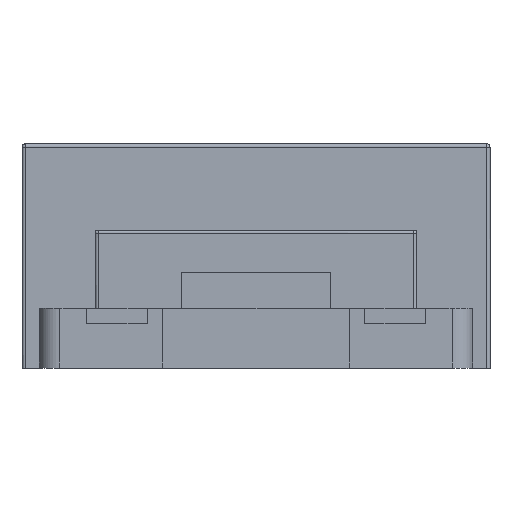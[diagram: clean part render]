
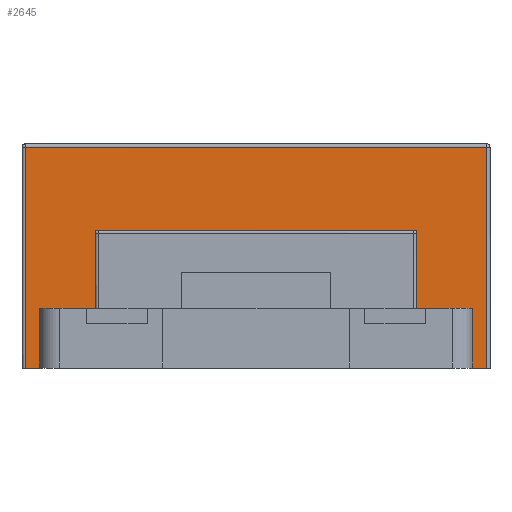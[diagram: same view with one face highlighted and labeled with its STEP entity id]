
A CAD part, left-side view. The second image highlights one B-rep face of the part: STEP entity #2645.
In plain terms, the highlighted free-form (B-spline) face has degree [1, 1] with [2, 2] control points.
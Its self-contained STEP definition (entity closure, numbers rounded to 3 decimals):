
#112=CARTESIAN_POINT('',(-14.035,7.64,6.68));
#113=VERTEX_POINT('',#112);
#114=CARTESIAN_POINT('',(-14.035,7.79,6.53));
#115=VERTEX_POINT('',#114);
#116=CARTESIAN_POINT('',(-14.035,7.64,6.68));
#117=CARTESIAN_POINT('',(-14.035,7.664,6.68));
#118=CARTESIAN_POINT('',(-14.035,7.688,6.675));
#119=CARTESIAN_POINT('',(-14.035,7.71,6.666));
#120=CARTESIAN_POINT('',(-14.035,7.75,6.639));
#121=CARTESIAN_POINT('',(-14.035,7.777,6.599));
#122=CARTESIAN_POINT('',(-14.035,7.786,6.577));
#123=CARTESIAN_POINT('',(-14.035,7.79,6.554));
#124=CARTESIAN_POINT('',(-14.035,7.79,6.53));
#125=B_SPLINE_CURVE_WITH_KNOTS('',5,(#116,#117,#118,#119,#120,#121,#122,#123,#124),.UNSPECIFIED.,.F.,.U.,(6,3,6),(0.,0.785,1.571),.UNSPECIFIED.);
#126=EDGE_CURVE('',#113,#115,#125,.T.);
#330=CARTESIAN_POINT('',(-14.035,-7.79,6.53));
#331=VERTEX_POINT('',#330);
#332=CARTESIAN_POINT('',(-14.035,-7.64,6.68));
#333=VERTEX_POINT('',#332);
#334=CARTESIAN_POINT('',(-14.035,-7.79,6.53));
#335=CARTESIAN_POINT('',(-14.035,-7.79,6.554));
#336=CARTESIAN_POINT('',(-14.035,-7.785,6.577));
#337=CARTESIAN_POINT('',(-14.035,-7.776,6.599));
#338=CARTESIAN_POINT('',(-14.035,-7.749,6.639));
#339=CARTESIAN_POINT('',(-14.035,-7.709,6.666));
#340=CARTESIAN_POINT('',(-14.035,-7.687,6.675));
#341=CARTESIAN_POINT('',(-14.035,-7.663,6.68));
#342=CARTESIAN_POINT('',(-14.035,-7.64,6.68));
#343=B_SPLINE_CURVE_WITH_KNOTS('',5,(#334,#335,#336,#337,#338,#339,#340,#341,#342),.UNSPECIFIED.,.F.,.U.,(6,3,6),(0.,0.785,1.571),.UNSPECIFIED.);
#344=EDGE_CURVE('',#331,#333,#343,.T.);
#409=CARTESIAN_POINT('',(-14.035,7.79,2.9));
#410=VERTEX_POINT('',#409);
#411=CARTESIAN_POINT('',(-14.035,7.79,6.53));
#412=CARTESIAN_POINT('',(-14.035,7.79,5.804));
#413=CARTESIAN_POINT('',(-14.035,7.79,5.078));
#414=CARTESIAN_POINT('',(-14.035,7.79,4.352));
#415=CARTESIAN_POINT('',(-14.035,7.79,3.626));
#416=CARTESIAN_POINT('',(-14.035,7.79,2.9));
#417=B_SPLINE_CURVE_WITH_KNOTS('',5,(#411,#412,#413,#414,#415,#416),.UNSPECIFIED.,.F.,.U.,(6,6),(0.,3.63),.UNSPECIFIED.);
#418=EDGE_CURVE('',#115,#410,#417,.T.);
#440=CARTESIAN_POINT('',(-14.035,-7.64,6.68));
#441=CARTESIAN_POINT('',(-14.035,-4.584,6.68));
#442=CARTESIAN_POINT('',(-14.035,-1.528,6.68));
#443=CARTESIAN_POINT('',(-14.035,1.528,6.68));
#444=CARTESIAN_POINT('',(-14.035,4.584,6.68));
#445=CARTESIAN_POINT('',(-14.035,7.64,6.68));
#446=B_SPLINE_CURVE_WITH_KNOTS('',5,(#440,#441,#442,#443,#444,#445),.UNSPECIFIED.,.F.,.U.,(6,6),(0.,15.28),.UNSPECIFIED.);
#447=EDGE_CURVE('',#333,#113,#446,.T.);
#565=CARTESIAN_POINT('',(-14.035,-11.175,10.7));
#566=VERTEX_POINT('',#565);
#776=CARTESIAN_POINT('',(-14.035,11.175,10.7));
#777=VERTEX_POINT('',#776);
#866=CARTESIAN_POINT('',(-14.035,11.175,0.));
#867=VERTEX_POINT('',#866);
#880=CARTESIAN_POINT('',(-14.035,11.175,0.));
#881=CARTESIAN_POINT('',(-14.035,11.175,2.14));
#882=CARTESIAN_POINT('',(-14.035,11.175,4.28));
#883=CARTESIAN_POINT('',(-14.035,11.175,6.42));
#884=CARTESIAN_POINT('',(-14.035,11.175,8.56));
#885=CARTESIAN_POINT('',(-14.035,11.175,10.7));
#886=B_SPLINE_CURVE_WITH_KNOTS('',5,(#880,#881,#882,#883,#884,#885),.UNSPECIFIED.,.F.,.U.,(6,6),(0.,10.7),.UNSPECIFIED.);
#887=EDGE_CURVE('',#867,#777,#886,.T.);
#914=CARTESIAN_POINT('',(-14.035,11.175,10.7));
#915=CARTESIAN_POINT('',(-14.035,6.705,10.7));
#916=CARTESIAN_POINT('',(-14.035,2.235,10.7));
#917=CARTESIAN_POINT('',(-14.035,-2.235,10.7));
#918=CARTESIAN_POINT('',(-14.035,-6.705,10.7));
#919=CARTESIAN_POINT('',(-14.035,-11.175,10.7));
#920=B_SPLINE_CURVE_WITH_KNOTS('',5,(#914,#915,#916,#917,#918,#919),.UNSPECIFIED.,.F.,.U.,(6,6),(0.,22.35),.UNSPECIFIED.);
#921=EDGE_CURVE('',#777,#566,#920,.T.);
#947=CARTESIAN_POINT('',(-14.035,-11.175,0.));
#948=VERTEX_POINT('',#947);
#973=CARTESIAN_POINT('',(-14.035,-11.175,10.7));
#974=CARTESIAN_POINT('',(-14.035,-11.175,8.56));
#975=CARTESIAN_POINT('',(-14.035,-11.175,6.42));
#976=CARTESIAN_POINT('',(-14.035,-11.175,4.28));
#977=CARTESIAN_POINT('',(-14.035,-11.175,2.14));
#978=CARTESIAN_POINT('',(-14.035,-11.175,0.));
#979=B_SPLINE_CURVE_WITH_KNOTS('',5,(#973,#974,#975,#976,#977,#978),.UNSPECIFIED.,.F.,.U.,(6,6),(0.,10.7),.UNSPECIFIED.);
#980=EDGE_CURVE('',#566,#948,#979,.T.);
#1396=CARTESIAN_POINT('',(-14.035,-10.49,0.));
#1397=VERTEX_POINT('',#1396);
#1398=CARTESIAN_POINT('',(-14.035,-10.49,0.));
#1399=CARTESIAN_POINT('',(-14.035,-10.627,0.));
#1400=CARTESIAN_POINT('',(-14.035,-10.764,0.));
#1401=CARTESIAN_POINT('',(-14.035,-10.901,0.));
#1402=CARTESIAN_POINT('',(-14.035,-11.038,0.));
#1403=CARTESIAN_POINT('',(-14.035,-11.175,0.));
#1404=B_SPLINE_CURVE_WITH_KNOTS('',5,(#1398,#1399,#1400,#1401,#1402,#1403),.UNSPECIFIED.,.F.,.U.,(6,6),(0.,0.685),.UNSPECIFIED.);
#1405=EDGE_CURVE('',#1397,#948,#1404,.T.);
#1513=CARTESIAN_POINT('',(-14.035,10.49,0.));
#1514=VERTEX_POINT('',#1513);
#1524=CARTESIAN_POINT('',(-14.035,11.175,0.));
#1525=CARTESIAN_POINT('',(-14.035,11.038,0.));
#1526=CARTESIAN_POINT('',(-14.035,10.901,0.));
#1527=CARTESIAN_POINT('',(-14.035,10.764,0.));
#1528=CARTESIAN_POINT('',(-14.035,10.627,0.));
#1529=CARTESIAN_POINT('',(-14.035,10.49,0.));
#1530=B_SPLINE_CURVE_WITH_KNOTS('',5,(#1524,#1525,#1526,#1527,#1528,#1529),.UNSPECIFIED.,.F.,.U.,(6,6),(0.,0.685),.UNSPECIFIED.);
#1531=EDGE_CURVE('',#867,#1514,#1530,.T.);
#2578=CARTESIAN_POINT('',(-14.035,11.175,0.));
#2579=CARTESIAN_POINT('',(-14.035,11.175,10.7));
#2580=CARTESIAN_POINT('',(-14.035,-11.175,0.));
#2581=CARTESIAN_POINT('',(-14.035,-11.175,10.7));
#2582=B_SPLINE_SURFACE_WITH_KNOTS('',1,1,((#2578,#2579),(#2580,#2581)),.PLANE_SURF.,.F.,.F.,.U.,(2,2),(2,2),(0.,2.089),(0.,1.),.UNSPECIFIED.);
#2583=ORIENTED_EDGE('',*,*,#887,.F.);
#2584=ORIENTED_EDGE('',*,*,#1531,.T.);
#2585=CARTESIAN_POINT('',(-14.035,10.49,2.9));
#2586=VERTEX_POINT('',#2585);
#2587=CARTESIAN_POINT('',(-14.035,10.49,2.9));
#2588=CARTESIAN_POINT('',(-14.035,10.49,2.32));
#2589=CARTESIAN_POINT('',(-14.035,10.49,1.74));
#2590=CARTESIAN_POINT('',(-14.035,10.49,1.16));
#2591=CARTESIAN_POINT('',(-14.035,10.49,0.58));
#2592=CARTESIAN_POINT('',(-14.035,10.49,0.));
#2593=B_SPLINE_CURVE_WITH_KNOTS('',5,(#2587,#2588,#2589,#2590,#2591,#2592),.UNSPECIFIED.,.F.,.U.,(6,6),(0.,2.9),.UNSPECIFIED.);
#2594=EDGE_CURVE('',#2586,#1514,#2593,.T.);
#2595=ORIENTED_EDGE('',*,*,#2594,.F.);
#2596=CARTESIAN_POINT('',(-14.035,7.79,2.9));
#2597=CARTESIAN_POINT('',(-14.035,8.33,2.9));
#2598=CARTESIAN_POINT('',(-14.035,8.87,2.9));
#2599=CARTESIAN_POINT('',(-14.035,9.41,2.9));
#2600=CARTESIAN_POINT('',(-14.035,9.95,2.9));
#2601=CARTESIAN_POINT('',(-14.035,10.49,2.9));
#2602=B_SPLINE_CURVE_WITH_KNOTS('',5,(#2596,#2597,#2598,#2599,#2600,#2601),.UNSPECIFIED.,.F.,.U.,(6,6),(0.,2.7),.UNSPECIFIED.);
#2603=EDGE_CURVE('',#410,#2586,#2602,.T.);
#2604=ORIENTED_EDGE('',*,*,#2603,.F.);
#2605=ORIENTED_EDGE('',*,*,#418,.F.);
#2606=ORIENTED_EDGE('',*,*,#126,.F.);
#2607=ORIENTED_EDGE('',*,*,#447,.F.);
#2608=ORIENTED_EDGE('',*,*,#344,.F.);
#2609=CARTESIAN_POINT('',(-14.035,-7.79,2.9));
#2610=VERTEX_POINT('',#2609);
#2611=CARTESIAN_POINT('',(-14.035,-7.79,2.9));
#2612=CARTESIAN_POINT('',(-14.035,-7.79,3.626));
#2613=CARTESIAN_POINT('',(-14.035,-7.79,4.352));
#2614=CARTESIAN_POINT('',(-14.035,-7.79,5.078));
#2615=CARTESIAN_POINT('',(-14.035,-7.79,5.804));
#2616=CARTESIAN_POINT('',(-14.035,-7.79,6.53));
#2617=B_SPLINE_CURVE_WITH_KNOTS('',5,(#2611,#2612,#2613,#2614,#2615,#2616),.UNSPECIFIED.,.F.,.U.,(6,6),(0.,3.63),.UNSPECIFIED.);
#2618=EDGE_CURVE('',#2610,#331,#2617,.T.);
#2619=ORIENTED_EDGE('',*,*,#2618,.F.);
#2620=CARTESIAN_POINT('',(-14.035,-10.49,2.9));
#2621=VERTEX_POINT('',#2620);
#2622=CARTESIAN_POINT('',(-14.035,-10.49,2.9));
#2623=CARTESIAN_POINT('',(-14.035,-9.95,2.9));
#2624=CARTESIAN_POINT('',(-14.035,-9.41,2.9));
#2625=CARTESIAN_POINT('',(-14.035,-8.87,2.9));
#2626=CARTESIAN_POINT('',(-14.035,-8.33,2.9));
#2627=CARTESIAN_POINT('',(-14.035,-7.79,2.9));
#2628=B_SPLINE_CURVE_WITH_KNOTS('',5,(#2622,#2623,#2624,#2625,#2626,#2627),.UNSPECIFIED.,.F.,.U.,(6,6),(0.,2.7),.UNSPECIFIED.);
#2629=EDGE_CURVE('',#2621,#2610,#2628,.T.);
#2630=ORIENTED_EDGE('',*,*,#2629,.F.);
#2631=CARTESIAN_POINT('',(-14.035,-10.49,0.));
#2632=CARTESIAN_POINT('',(-14.035,-10.49,0.58));
#2633=CARTESIAN_POINT('',(-14.035,-10.49,1.16));
#2634=CARTESIAN_POINT('',(-14.035,-10.49,1.74));
#2635=CARTESIAN_POINT('',(-14.035,-10.49,2.32));
#2636=CARTESIAN_POINT('',(-14.035,-10.49,2.9));
#2637=B_SPLINE_CURVE_WITH_KNOTS('',5,(#2631,#2632,#2633,#2634,#2635,#2636),.UNSPECIFIED.,.F.,.U.,(6,6),(0.,2.9),.UNSPECIFIED.);
#2638=EDGE_CURVE('',#1397,#2621,#2637,.T.);
#2639=ORIENTED_EDGE('',*,*,#2638,.F.);
#2640=ORIENTED_EDGE('',*,*,#1405,.T.);
#2641=ORIENTED_EDGE('',*,*,#980,.F.);
#2642=ORIENTED_EDGE('',*,*,#921,.F.);
#2643=EDGE_LOOP('',(#2583,#2584,#2595,#2604,#2605,#2606,#2607,#2608,#2619,#2630,#2639,#2640,#2641,#2642));
#2644=FACE_OUTER_BOUND('',#2643,.T.);
#2645=ADVANCED_FACE('',(#2644),#2582,.T.);
